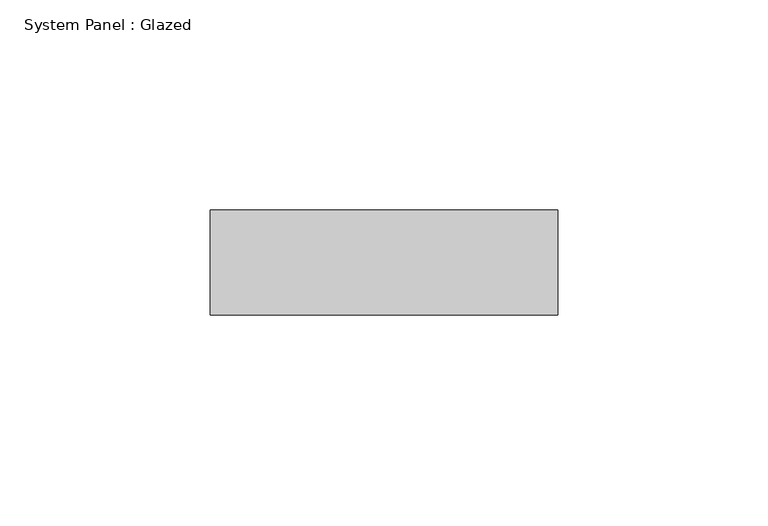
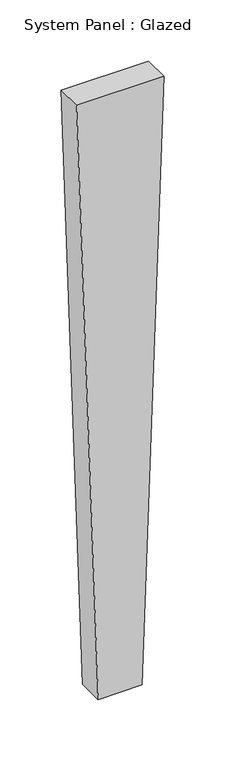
"""IFC4 building model written with IfcOpenShell, lengths in millimetres: plate geometry, System Panel : Glazed."""

import ifcopenshell
import ifcopenshell.guid

model = None  # the IFC model being written
_history = None  # IfcOwnerHistory: only IFC2X3 demands one
_inside = {}  # id of a spatial element -> (the spatial element, [elements in it])
_under = {}  # id of a project, library or spatial element -> (it, [spatial elements below it])
_declared = {}  # id of a project -> (the project, [libraries it declares])
_typed = {}  # id of a type object -> (the type object, [elements of that type])
_made_of = {}  # id of a material, layer set ... -> (it, [elements and type objects made of it])


def new_model(schema):
    """Start an empty IFC model of exactly this schema.

    Asked for "IFC4X3", IfcOpenShell would pick the latest addendum, in which some entities
    have other attributes; the version numbers below select the first issue.
    IFC2X3 requires an IfcOwnerHistory on every rooted entity: one is made here for all.
    """
    global model, _history
    if schema == "IFC4X3":
        model = ifcopenshell.file(schema_version=(4, 3, 0, 0))
    else:
        model = ifcopenshell.file(schema=schema)
    _inside.clear()
    _under.clear()
    _declared.clear()
    _typed.clear()
    _made_of.clear()
    _history = None
    if model.schema == "IFC2X3":
        org = make("IfcOrganization", Name="unknown")
        user = make(
            "IfcPersonAndOrganization",
            ThePerson=make("IfcPerson", FamilyName="unknown"),
            TheOrganization=org,
        )
        app = make(
            "IfcApplication",
            ApplicationDeveloper=org,
            Version="unknown",
            ApplicationFullName="unknown",
            ApplicationIdentifier="unknown",
        )
        _history = make(
            "IfcOwnerHistory",
            OwningUser=user,
            OwningApplication=app,
            ChangeAction="ADDED",
            CreationDate=0,
        )
    return model


def make(cls, **values):
    """One entity of the class cls with the attributes given. An attribute that is None is left unset."""
    return model.create_entity(
        cls, **{name: value for name, value in values.items() if value is not None}
    )


def rooted(cls, **values):
    """An entity with a GlobalId (a new one), such as an element, a storey or a relation."""
    return make(cls, GlobalId=ifcopenshell.guid.new(), OwnerHistory=_history, **values)


def si_unit(unit_type, name, prefix=None):
    """IfcSIUnit, for example si_unit("LENGTHUNIT", "METRE", prefix="MILLI")."""
    return make("IfcSIUnit", UnitType=unit_type, Prefix=prefix, Name=name)


def assignment(units):
    """IfcUnitAssignment: the units of a project."""
    return None if units is None else make("IfcUnitAssignment", Units=units)


def point(xyz):
    """IfcCartesianPoint."""
    return None if xyz is None else make("IfcCartesianPoint", Coordinates=xyz)


def direction(xyz):
    """IfcDirection."""
    return None if xyz is None else make("IfcDirection", DirectionRatios=xyz)


def frame(location, z_axis=None, x_axis=None):
    """IfcAxis2Placement3D, a coordinate frame: its origin and axes. An axis left out is left unset."""
    return make(
        "IfcAxis2Placement3D",
        Location=point(location),
        Axis=direction(z_axis),
        RefDirection=direction(x_axis),
    )


def origin():
    """The frame at (0, 0, 0) with its axes left unset."""
    return frame((0.0, 0.0, 0.0))


def place(relative_to, where):
    """IfcLocalPlacement: puts the frame where relative to a parent placement (None: the world)."""
    return make(
        "IfcLocalPlacement", PlacementRelTo=relative_to, RelativePlacement=where
    )


def context(
    kind, dimensions, precision=None, world=None, true_north=None, identifier=None
):
    """IfcGeometricRepresentationContext, for example the 3D "Model" context."""
    return make(
        "IfcGeometricRepresentationContext",
        ContextIdentifier=identifier,
        ContextType=kind,
        CoordinateSpaceDimension=dimensions,
        Precision=precision,
        WorldCoordinateSystem=world,
        TrueNorth=true_north,
    )


def project(units=None, contexts=None):
    """IfcProject with its units and contexts."""
    return rooted(
        "IfcProject",
        Name="project",
        RepresentationContexts=contexts,
        UnitsInContext=assignment(units),
    )


def spatial(cls, under=None, at=None, **own):
    """A site, building, storey or space (cls), placed at a placement, below another one or the project."""
    s = rooted(cls, ObjectPlacement=at, **own)
    if under is not None:
        _under.setdefault(under.id(), (under, []))[1].append(s)
    return s


def polyline(points):
    """IfcPolyline through the points."""
    return make("IfcPolyline", Points=[point(p) for p in points])


def outline(outer, holes=None, kind="AREA"):
    """IfcArbitraryClosedProfileDef: a profile drawn as a closed curve; with holes, ...WithVoids."""
    if holes is None:
        return make("IfcArbitraryClosedProfileDef", ProfileType=kind, OuterCurve=outer)
    return make(
        "IfcArbitraryProfileDefWithVoids",
        ProfileType=kind,
        OuterCurve=outer,
        InnerCurves=holes,
    )


def extrude(swept, where, along, depth):
    """IfcExtrudedAreaSolid: the profile swept, set in the frame where, extruded along a direction by depth."""
    return make(
        "IfcExtrudedAreaSolid",
        SweptArea=swept,
        Position=where,
        ExtrudedDirection=direction(along),
        Depth=depth,
    )


def shape(context_of_items, identifier, shape_type, items):
    """IfcShapeRepresentation: the items that make up one representation, for example the "Body"."""
    return make(
        "IfcShapeRepresentation",
        ContextOfItems=context_of_items,
        RepresentationIdentifier=identifier,
        RepresentationType=shape_type,
        Items=items,
    )


def source(mapping_origin, context_of_items, identifier, shape_type, items):
    """IfcRepresentationMap: a shape defined once, which mapped items show again and again."""
    return make(
        "IfcRepresentationMap",
        MappingOrigin=mapping_origin,
        MappedRepresentation=shape(context_of_items, identifier, shape_type, items),
    )


def transform(
    local_origin,
    x_axis=None,
    y_axis=None,
    z_axis=None,
    scale=None,
    scale2=None,
    scale3=None,
    uniform=True,
):
    """IfcCartesianTransformationOperator3D, or its non-uniform kind. x_axis, y_axis, z_axis: its Axis1, 2, 3."""
    if uniform:
        return make(
            "IfcCartesianTransformationOperator3D",
            Axis1=direction(x_axis),
            Axis2=direction(y_axis),
            LocalOrigin=point(local_origin),
            Scale=scale,
            Axis3=direction(z_axis),
        )
    return make(
        "IfcCartesianTransformationOperator3DnonUniform",
        Axis1=direction(x_axis),
        Axis2=direction(y_axis),
        LocalOrigin=point(local_origin),
        Scale=scale,
        Axis3=direction(z_axis),
        Scale2=scale2,
        Scale3=scale3,
    )


def mapped(mapping_source, mapping_target):
    """IfcMappedItem: shows the shape of a source again, moved by a transform."""
    return make(
        "IfcMappedItem", MappingSource=mapping_source, MappingTarget=mapping_target
    )


def made_of(thing, what):
    """Note that an element or type object is made of a material, layer set ...; save() writes the relation."""
    if what is not None:
        _made_of.setdefault(what.id(), (what, []))[1].append(thing)
    return thing


def element(
    cls,
    number,
    at=None,
    inside=None,
    cuts=None,
    type_object=None,
    material=None,
    context=None,
    identifier="Body",
    shape_type=None,
    held_by="IfcProductDefinitionShape",
    body=None,
    shapes=None,
    **own,
):
    """One element of the class cls, such as IfcWall. Its Tag is "e" and its number.

    at: its placement. inside: the storey or other place that contains it. cuts: it is an
    opening in that element (IfcRelVoidsElement). A single representation is given by context,
    identifier, shape_type and body (its items); several are given by shapes. held_by: the class
    of the entity that holds the representations. save() writes the other relations.
    """
    e = rooted(cls, Tag="e%d" % number, ObjectPlacement=at, **own)
    if body is not None:
        shapes = [shape(context, identifier, shape_type, body)]
    if shapes is not None:
        e.Representation = make(held_by, Representations=shapes)
    if inside is not None:
        _inside.setdefault(inside.id(), (inside, []))[1].append(e)
    if cuts is not None:
        rooted(
            "IfcRelVoidsElement", RelatingBuildingElement=cuts, RelatedOpeningElement=e
        )
    if type_object is not None:
        _typed.setdefault(type_object.id(), (type_object, []))[1].append(e)
    return made_of(e, material)


def aggregate(whole, parts):
    """IfcRelAggregates: a whole, such as a stair, and the parts it consists of."""
    return rooted("IfcRelAggregates", RelatingObject=whole, RelatedObjects=parts)


def save(model, path):
    """Write the relations noted so far, then the file.

    IfcRelAggregates (storeys below a building ...), IfcRelContainedInSpatialStructure (elements
    in a storey), IfcRelDefinesByType, IfcRelAssociatesMaterial and IfcRelDeclares: one each for
    every whole, place, type object, material and project.
    """
    for whole, parts in _under.values():
        aggregate(whole, parts)
    for where, things in _inside.values():
        rooted(
            "IfcRelContainedInSpatialStructure",
            RelatedElements=things,
            RelatingStructure=where,
        )
    for kind, things in _typed.values():
        rooted("IfcRelDefinesByType", RelatedObjects=things, RelatingType=kind)
    for what, things in _made_of.values():
        rooted("IfcRelAssociatesMaterial", RelatedObjects=things, RelatingMaterial=what)
    for by, libraries in _declared.values():
        rooted("IfcRelDeclares", RelatingContext=by, RelatedDefinitions=libraries)
    model.write(path)


def system_panel_glazed_51fa8bef(model_context):
    return source(origin(), model_context, "Body", "SweptSolid", [
        extrude(outline(polyline([(0.0, -20.8366878), (0.0, 20.8366878), (599.6514229, 41.2859165), (599.6514229, -41.2859165), (0.0, -20.8366878)])), frame((0.0, 24.5, 0.0), z_axis=(0.0, 1.0, 0.0), x_axis=(0.0, 0.0, 1.0)), (0.0, 0.0, 1.0), 25.0),
    ])


if __name__ == "__main__":
    model = new_model("IFC4")
    model_context = context("Model", 3, world=origin())
    ifc_project = project(units=[si_unit("LENGTHUNIT", "METRE", prefix="MILLI")], contexts=[model_context])
    site = spatial("IfcSite", under=ifc_project)
    building = spatial("IfcBuilding", under=site)
    placement = place(None, origin())
    system_panel_glazed_shape = system_panel_glazed_51fa8bef(model_context)
    element("IfcPlate", 1, ObjectType="System Panel : Glazed", at=placement, inside=building, context=model_context, shape_type="MappedRepresentation", body=[
        mapped(system_panel_glazed_shape, transform((0.0, 0.0, 0.0), x_axis=(1.0, 0.0, 0.0), y_axis=(0.0, 1.0, 0.0), z_axis=(0.0, 0.0, 1.0))),
    ])
    save(model, "model.ifc")
